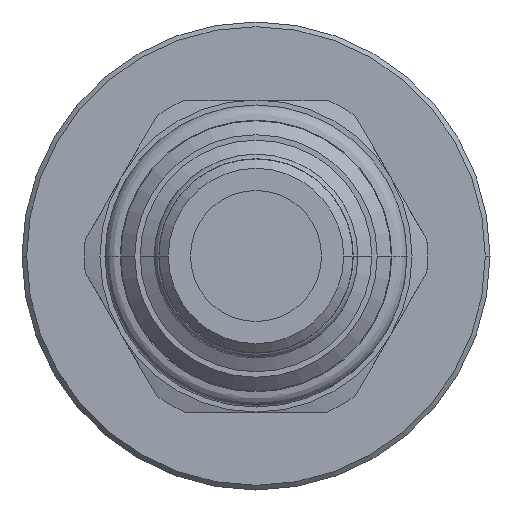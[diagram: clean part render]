
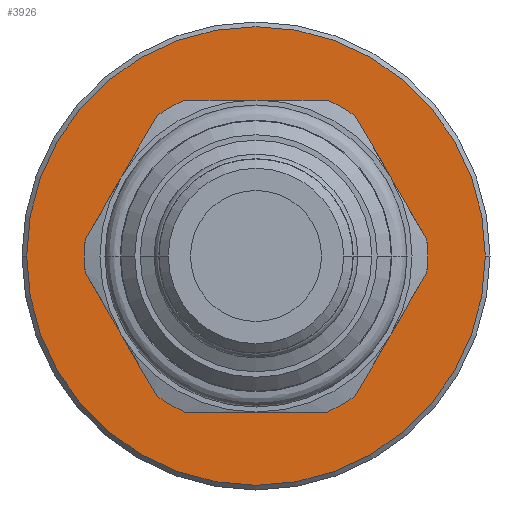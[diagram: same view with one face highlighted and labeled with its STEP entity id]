
A CAD part, front view. The second image highlights one B-rep face of the part: STEP entity #3926.
In plain terms, the highlighted planar face has unit normal (0, -1, 0).
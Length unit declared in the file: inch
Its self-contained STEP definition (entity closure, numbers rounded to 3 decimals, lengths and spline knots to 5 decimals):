
#1391=CARTESIAN_POINT('',(0.,1.32948,0.));
#1392=DIRECTION('',(0.,-1.,0.));
#1393=DIRECTION('',(-1.,0.,0.));
#1394=AXIS2_PLACEMENT_3D('',#1391,#1392,#1393);
#1396=CARTESIAN_POINT('',(0.,1.32948,0.));
#1397=DIRECTION('',(0.,-1.,0.));
#1398=DIRECTION('',(1.,0.,0.));
#1399=AXIS2_PLACEMENT_3D('',#1396,#1397,#1398);
#1401=CARTESIAN_POINT('',(0.,1.32948,0.));
#1402=DIRECTION('',(0.,-1.,0.));
#1403=DIRECTION('',(-1.,0.,0.));
#1404=AXIS2_PLACEMENT_3D('',#1401,#1402,#1403);
#1419=CARTESIAN_POINT('',(0.,1.32948,0.));
#1420=DIRECTION('',(0.,-1.,0.));
#1421=DIRECTION('',(1.,0.,0.));
#1422=AXIS2_PLACEMENT_3D('',#1419,#1420,#1421);
#2261=CARTESIAN_POINT('',(-0.375,1.32948,0.));
#2262=CARTESIAN_POINT('',(0.375,1.32948,0.));
#2263=VERTEX_POINT('',#2261);
#2264=VERTEX_POINT('',#2262);
#2265=CARTESIAN_POINT('',(0.735,1.32948,0.));
#2266=CARTESIAN_POINT('',(-0.735,1.32948,0.));
#2267=VERTEX_POINT('',#2265);
#2268=VERTEX_POINT('',#2266);
#3910=CARTESIAN_POINT('',(0.,1.32948,0.));
#3911=DIRECTION('',(0.,-1.,0.));
#3912=DIRECTION('',(-1.,0.,0.));
#3913=AXIS2_PLACEMENT_3D('',#3910,#3911,#3912);
#3914=PLANE('',#3913);
#3916=ORIENTED_EDGE('',*,*,#3915,.F.);
#3918=ORIENTED_EDGE('',*,*,#3917,.F.);
#3919=EDGE_LOOP('',(#3916,#3918));
#3920=FACE_OUTER_BOUND('',#3919,.F.);
#3921=ORIENTED_EDGE('',*,*,#3900,.T.);
#3923=ORIENTED_EDGE('',*,*,#3922,.T.);
#3924=EDGE_LOOP('',(#3921,#3923));
#3925=FACE_BOUND('',#3924,.F.);
#3926=ADVANCED_FACE('',(#3920,#3925),#3914,.T.);
#1395=CIRCLE('',#1394,0.375);
#1400=CIRCLE('',#1399,0.375);
#1405=CIRCLE('',#1404,0.735);
#1423=CIRCLE('',#1422,0.735);
#3900=EDGE_CURVE('',#2263,#2264,#1395,.T.);
#3915=EDGE_CURVE('',#2268,#2267,#1405,.T.);
#3917=EDGE_CURVE('',#2267,#2268,#1423,.T.);
#3922=EDGE_CURVE('',#2264,#2263,#1400,.T.);
